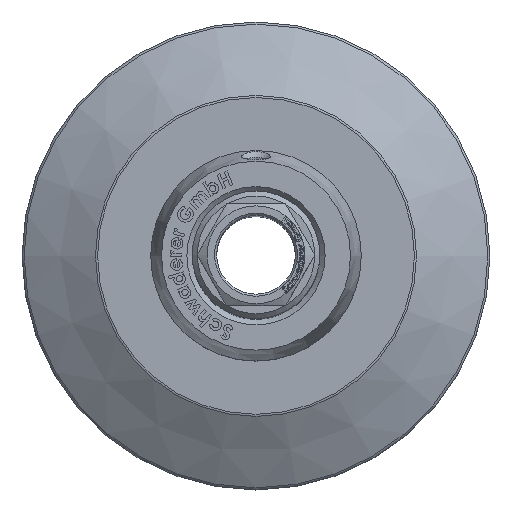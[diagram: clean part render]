
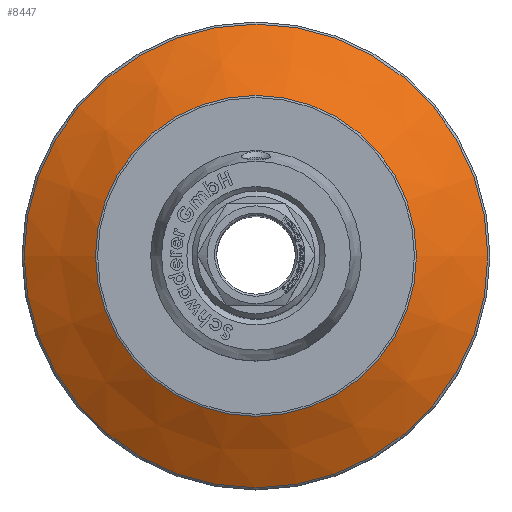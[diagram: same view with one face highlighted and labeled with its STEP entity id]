
A CAD part, top view. The second image highlights one B-rep face of the part: STEP entity #8447.
In plain terms, the highlighted conical face has half-angle 60.255 degrees and reference radius 46.25 mm.
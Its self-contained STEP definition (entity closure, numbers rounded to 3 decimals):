
#963=LINE('',#10968,#1744);
#1744=VECTOR('',#9375,46.25);
#2525=CONICAL_SURFACE('',#8954,46.25,1.052);
#2543=FACE_OUTER_BOUND('',#3022,.T.);
#3022=EDGE_LOOP('',(#5845,#5846,#5847,#5848,#5849,#5850));
#3552=CIRCLE('',#8951,37.731);
#3553=CIRCLE('',#8952,37.731);
#3555=CIRCLE('',#8955,54.496);
#3556=CIRCLE('',#8956,54.496);
#3668=VERTEX_POINT('',#10957);
#3669=VERTEX_POINT('',#10959);
#3670=VERTEX_POINT('',#10964);
#3671=VERTEX_POINT('',#10965);
#4539=EDGE_CURVE('',#3668,#3669,#3552,.T.);
#4540=EDGE_CURVE('',#3669,#3668,#3553,.T.);
#4542=EDGE_CURVE('',#3670,#3671,#3555,.T.);
#4543=EDGE_CURVE('',#3671,#3670,#3556,.T.);
#4544=EDGE_CURVE('',#3671,#3668,#963,.T.);
#5845=ORIENTED_EDGE('',*,*,#4542,.F.);
#5846=ORIENTED_EDGE('',*,*,#4543,.F.);
#5847=ORIENTED_EDGE('',*,*,#4544,.T.);
#5848=ORIENTED_EDGE('',*,*,#4540,.F.);
#5849=ORIENTED_EDGE('',*,*,#4539,.F.);
#5850=ORIENTED_EDGE('',*,*,#4544,.F.);
#8447=ADVANCED_FACE('',(#2543),#2525,.T.);
#8951=AXIS2_PLACEMENT_3D('',#10960,#9363,#9364);
#8952=AXIS2_PLACEMENT_3D('',#10961,#9365,#9366);
#8954=AXIS2_PLACEMENT_3D('',#10963,#9369,#9370);
#8955=AXIS2_PLACEMENT_3D('',#10966,#9371,#9372);
#8956=AXIS2_PLACEMENT_3D('',#10967,#9373,#9374);
#9363=DIRECTION('center_axis',(0.,0.,
1.));
#9364=DIRECTION('ref_axis',(-1.,0.,0.));
#9365=DIRECTION('center_axis',(0.,0.,
1.));
#9366=DIRECTION('ref_axis',(-1.,0.,0.));
#9369=DIRECTION('center_axis',(0.,0.,-1.));
#9370=DIRECTION('ref_axis',(1.,0.,0.));
#9371=DIRECTION('center_axis',(0.,0.,
-1.));
#9372=DIRECTION('ref_axis',(-1.,0.,0.));
#9373=DIRECTION('center_axis',(0.,0.,
-1.));
#9374=DIRECTION('ref_axis',(-1.,0.,0.));
#9375=DIRECTION('',(0.868,0.,0.496));
#10957=CARTESIAN_POINT('',(-37.731,0.,-23.999));
#10959=CARTESIAN_POINT('',(37.731,0.,-23.999));
#10960=CARTESIAN_POINT('Origin',(0.,0.,
-23.999));
#10961=CARTESIAN_POINT('Origin',(0.,0.,
-23.999));
#10963=CARTESIAN_POINT('Origin',(0.,0.,-28.867));
#10964=CARTESIAN_POINT('',(54.496,0.,-33.579));
#10965=CARTESIAN_POINT('',(-54.496,0.,-33.579));
#10966=CARTESIAN_POINT('Origin',(0.,0.,
-33.579));
#10967=CARTESIAN_POINT('Origin',(0.,0.,
-33.579));
#10968=CARTESIAN_POINT('',(-46.25,0.,-28.867));
